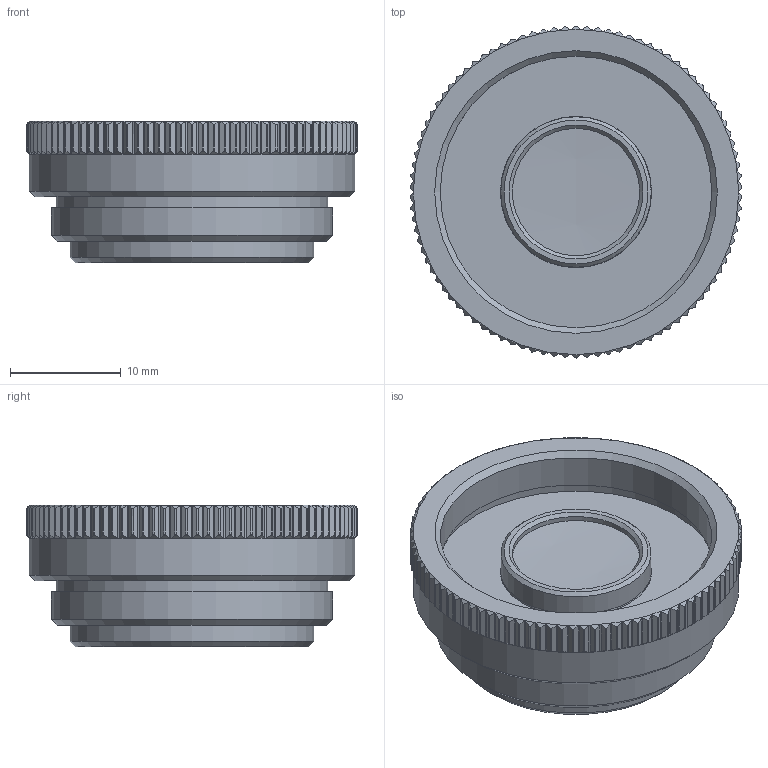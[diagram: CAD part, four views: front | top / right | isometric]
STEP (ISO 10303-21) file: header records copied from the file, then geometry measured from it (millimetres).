
FILE_DESCRIPTION (( 'STEP AP203' ), '1' );
FILE_NAME ('3d_ML-RM1.5X_a001.STEP', '2023-12-26T07:50:45', ( '' ), ( '' ), 'SwSTEP 2.0', 'SolidWorks 2020', '' );
FILE_SCHEMA (( 'CONFIG_CONTROL_DESIGN' ));
Length unit declared in the file: millimetre
Products named in the file (1): 3d_ML-RM1.5X_a001
Bounding box: 29.98 x 30 x 12.82 mm (x, y, z)
Volume: 5397.1 mm3; surface area: 3123.9 mm2
Topology: 1 solids, 1 shells, 409 faces, 1184 edges, 787 vertices
Faces by surface type: cylinder 198, plane 198, cone 11, sphere 2
Full cylindrical faces by diameter (mm): 9 x1, 11.5 x1, 11.737 x1, 13.6 x1, 22 x1, 24.54 x2, 25.4 x2, 29.4 x1
Entity records: 18957 total; most frequent: CARTESIAN_POINT 9684, ORIENTED_EDGE 2318, DIRECTION 1258, EDGE_CURVE 1159, VERTEX_POINT 783, B_SPLINE_CURVE_WITH_KNOTS 752, AXIS2_PLACEMENT_3D 441, EDGE_LOOP 440
